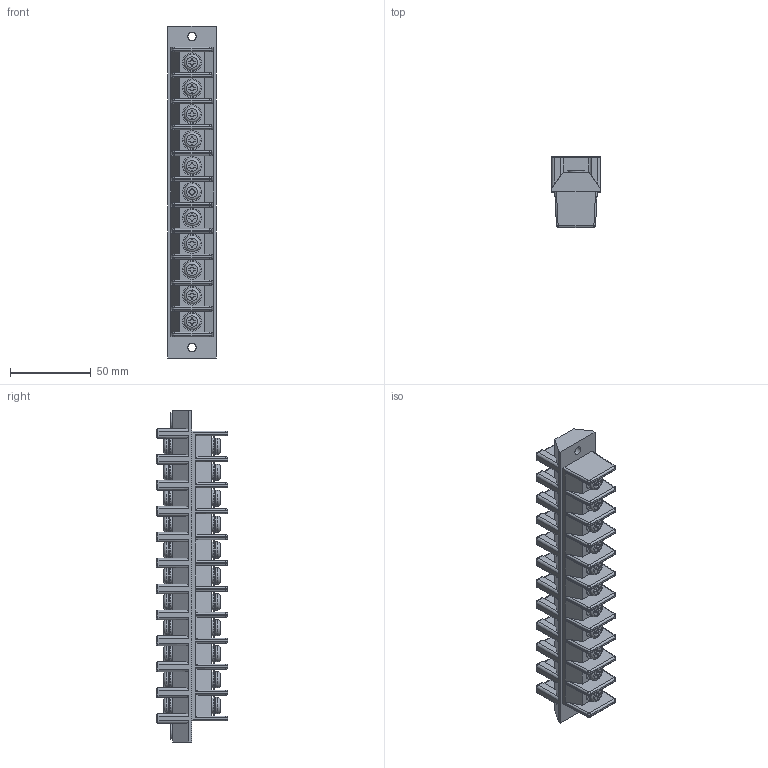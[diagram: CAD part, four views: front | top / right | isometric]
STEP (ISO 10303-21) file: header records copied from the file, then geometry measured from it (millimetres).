
FILE_DESCRIPTION(/* description */ ('Alibre Inc.'),/* implementation_level */ '2;1');
FILE_NAME(/* name */ 'export-FEEE53A3-6DD8-4B09-89C7-0C7CE10DCAFB',/* time_stamp */ '2025-02-21T13:35:27+09:00',/* author */ (''),/* organization */ (''),/* preprocessor_version */ 'ST-DEVELOPER v17',/* originating_system */ 'Alibre',/* authorisation */ '');
FILE_SCHEMA (('CONFIG_CONTROL_DESIGN'));
Length unit declared in the file: millimetre
Bounding box: 30 x 44 x 205 mm (x, y, z)
Volume: 142274.9 mm3; surface area: 47724.3 mm2
Topology: 1 solids, 34 shells, 1420 faces, 3273 edges, 2034 vertices
Faces by surface type: plane 665, cylinder 545, torus 166, cone 44
Full cylindrical faces by diameter (mm): 4.4 x22, 4.6 x22, 5 x33, 5.2 x2, 8 x22, 9.9 x24, 10 x22, 11.7 x22
Entity records: 37386 total; most frequent: CARTESIAN_POINT 6830, ORIENTED_EDGE 6028, DIRECTION 5949, EDGE_CURVE 3014, AXIS2_PLACEMENT_3D 2524, VERTEX_POINT 2010, EDGE_LOOP 1816, FACE_BOUND 1816
